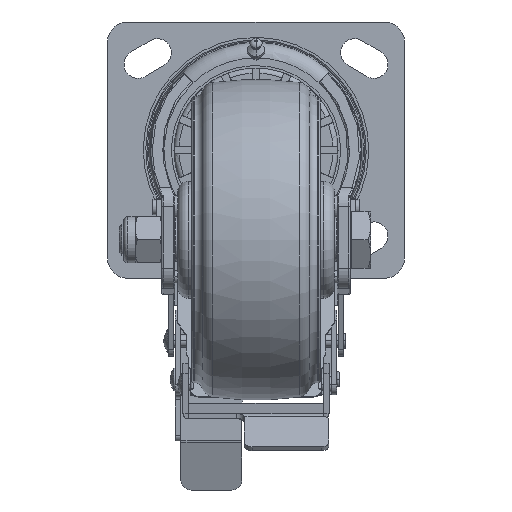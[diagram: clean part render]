
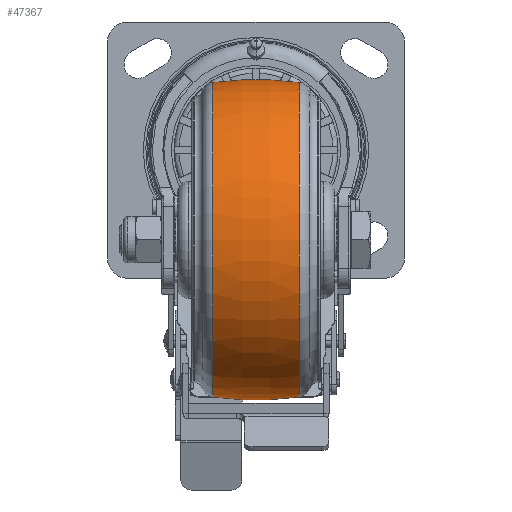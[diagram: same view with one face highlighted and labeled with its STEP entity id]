
A CAD part, front view. The second image highlights one B-rep face of the part: STEP entity #47367.
In plain terms, the highlighted toroidal (fillet/blend) face has major radius 64.028 mm and minor radius 126.528 mm.
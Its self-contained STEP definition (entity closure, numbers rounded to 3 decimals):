
#452 = DIRECTION ( 'NONE',  ( 0., -1., 0. ) ) ;
#3041 = CARTESIAN_POINT ( 'NONE',  ( 0., 0., 0. ) ) ;
#3463 = DIRECTION ( 'NONE',  ( 1., 0., 0. ) ) ;
#4501 = DIRECTION ( 'NONE',  ( 0., 0., -1. ) ) ;
#4704 = CARTESIAN_POINT ( 'NONE',  ( -64.028, 0., 0. ) ) ;
#5569 = CARTESIAN_POINT ( 'NONE',  ( 0., 0., 16.795 ) ) ;
#6009 = DIRECTION ( 'NONE',  ( 1., 0., 0. ) ) ;
#6218 = ORIENTED_EDGE ( 'NONE', *, *, #53918, .T. ) ;
#7125 = CARTESIAN_POINT ( 'NONE',  ( 0., 0., -16.795 ) ) ;
#9069 = VERTEX_POINT ( 'NONE', #36802 ) ;
#13389 = DIRECTION ( 'NONE',  ( 0., 0., 1. ) ) ;
#16255 = VERTEX_POINT ( 'NONE', #38064 ) ;
#19322 = AXIS2_PLACEMENT_3D ( 'NONE', #5569, #58902, #6009 ) ;
#19498 = EDGE_CURVE ( 'NONE', #47008, #9069, #56795, .T. ) ;
#20446 = EDGE_LOOP ( 'NONE', ( #42672, #6218, #27867, #24466 ) ) ;
#24466 = ORIENTED_EDGE ( 'NONE', *, *, #49510, .F. ) ;
#25572 = CIRCLE ( 'NONE', #53021, 126.528 ) ;
#27732 = AXIS2_PLACEMENT_3D ( 'NONE', #3041, #13389, #3463 ) ;
#27867 = ORIENTED_EDGE ( 'NONE', *, *, #19498, .T. ) ;
#31188 = DIRECTION ( 'NONE',  ( 1., 0., 0. ) ) ;
#31599 = DIRECTION ( 'NONE',  ( 0., 0., 1. ) ) ;
#32098 = CARTESIAN_POINT ( 'NONE',  ( -61.38, 0., -16.795 ) ) ;
#32389 = DIRECTION ( 'NONE',  ( 0., 1., 0. ) ) ;
#34149 = EDGE_CURVE ( 'NONE', #49780, #16255, #25572, .T. ) ;
#35996 = CIRCLE ( 'NONE', #47767, 61.38 ) ;
#36802 = CARTESIAN_POINT ( 'NONE',  ( 61.38, 0., 16.795 ) ) ;
#38064 = CARTESIAN_POINT ( 'NONE',  ( -61.38, 0., 16.795 ) ) ;
#39938 = CARTESIAN_POINT ( 'NONE',  ( 61.38, 0., -16.795 ) ) ;
#41759 = TOROIDAL_SURFACE ( 'NONE', #27732, -64.028, 126.528 ) ;
#42565 = FACE_OUTER_BOUND ( 'NONE', #20446, .T. ) ;
#42672 = ORIENTED_EDGE ( 'NONE', *, *, #34149, .F. ) ;
#47008 = VERTEX_POINT ( 'NONE', #39938 ) ;
#47367 = ADVANCED_FACE ( 'NONE', ( #42565 ), #41759, .T. ) ;
#47767 = AXIS2_PLACEMENT_3D ( 'NONE', #7125, #31599, #31188 ) ;
#49510 = EDGE_CURVE ( 'NONE', #16255, #9069, #54516, .T. ) ;
#49780 = VERTEX_POINT ( 'NONE', #32098 ) ;
#53021 = AXIS2_PLACEMENT_3D ( 'NONE', #61284, #32389, #55999 ) ;
#53256 = AXIS2_PLACEMENT_3D ( 'NONE', #4704, #452, #4501 ) ;
#53918 = EDGE_CURVE ( 'NONE', #49780, #47008, #35996, .T. ) ;
#54516 = CIRCLE ( 'NONE', #19322, 61.38 ) ;
#55999 = DIRECTION ( 'NONE',  ( -1., 0., 0. ) ) ;
#56795 = CIRCLE ( 'NONE', #53256, 126.528 ) ;
#58902 = DIRECTION ( 'NONE',  ( 0., 0., 1. ) ) ;
#61284 = CARTESIAN_POINT ( 'NONE',  ( 64.028, 0., 0. ) ) ;
